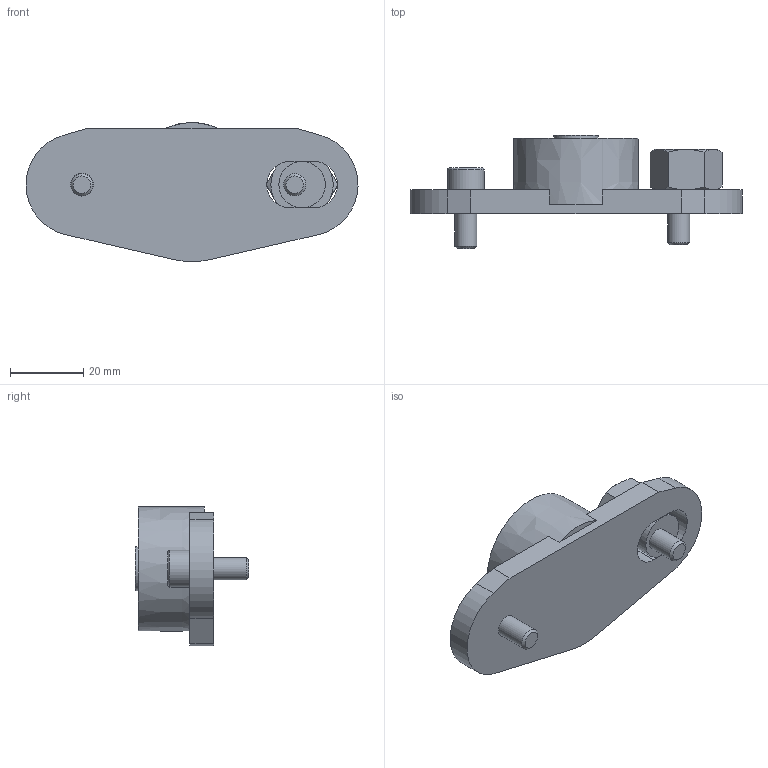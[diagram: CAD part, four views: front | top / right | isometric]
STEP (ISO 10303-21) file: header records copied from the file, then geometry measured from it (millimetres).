
FILE_DESCRIPTION( ( 'STEP AP203' ), '1' );
FILE_NAME( 'p:/temp/worker_60/temp/exporttempdir_4772_813_6zM7X/format_0/BHR34E.stp', '2021-09-29T07:20:32', ( 'License CC BY-ND 4.0' ), ( 'CADENAS' ), ' ', 'PARTsolutions', ' ' );
FILE_SCHEMA( ( 'CONFIG_CONTROL_DESIGN' ) );
Length unit declared in the file: millimetre
Products named in the file (4): BHR34E; _BHR34E_E; HI_DIN912-M6x16; _BHR34E_SE
Assembly tree (3 placements, depth 2):
  BHR34E
    _BHR34E_E
    HI_DIN912-M6x16
    _BHR34E_SE
Bounding box: 90.49 x 30.8 x 37.89 mm (x, y, z)
Volume: 33263.4 mm3; surface area: 10667.6 mm2
Topology: 3 solids, 3 shells, 90 faces, 206 edges, 129 vertices
Faces by surface type: plane 52, cone 22, cylinder 12, torus 3, bspline 1
Full cylindrical faces by diameter (mm): 6 x2, 6.25 x1, 10 x2, 12 x1, 12.65 x1
Entity records: 2712 total; most frequent: CARTESIAN_POINT 628, DIRECTION 400, ORIENTED_EDGE 378, EDGE_CURVE 189, AXIS2_PLACEMENT_3D 150, VERTEX_POINT 128, EDGE_LOOP 116, FACE_OUTER_BOUND 101
